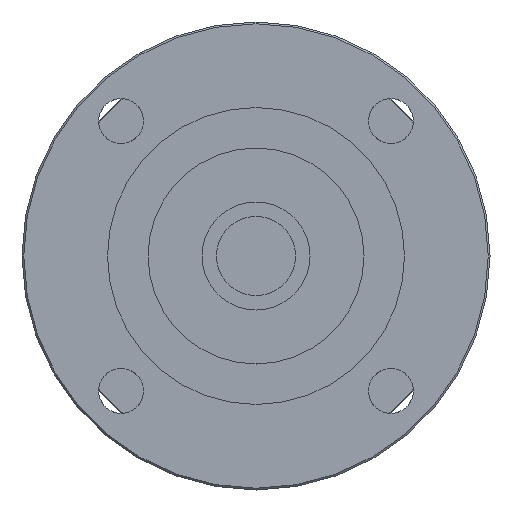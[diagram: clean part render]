
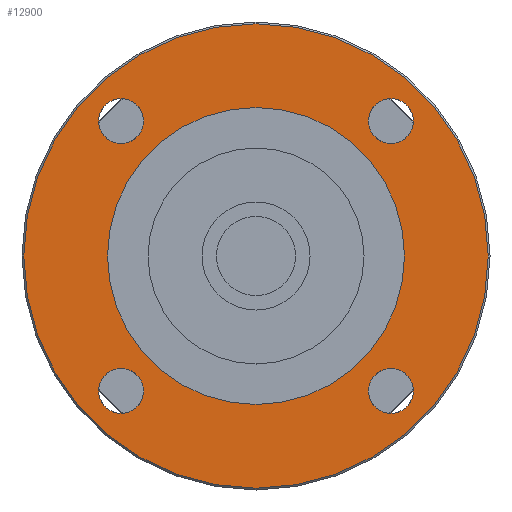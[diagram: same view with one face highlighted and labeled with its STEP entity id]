
A CAD part, left-side view. The second image highlights one B-rep face of the part: STEP entity #12900.
In plain terms, the highlighted planar face has unit normal (-1, 0, 0) as drawn and (0, 0, -1) by its records, which use the part's own axes.
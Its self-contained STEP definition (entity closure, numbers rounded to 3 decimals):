
#11820=CARTESIAN_POINT('',(-64.5,0.,-79.1));
#11830=VERTEX_POINT('',#11820);
#11860=CARTESIAN_POINT('',(0.,0.,
-79.1));
#11870=DIRECTION('',(0.,0.,-1.));
#11880=DIRECTION('',(1.,0.,0.));
#11890=AXIS2_PLACEMENT_3D('',#11860,#11870,#11880);
#11900=CIRCLE('',#11890,64.5);
#11910=CARTESIAN_POINT('',(64.5,0.,-79.1));
#11920=VERTEX_POINT('',#11910);
#11930=EDGE_CURVE('',#11830,#11920,#11900,.T.);
#12050=CARTESIAN_POINT('',(0.,0.,
-79.1));
#12060=DIRECTION('',(0.,0.,-1.));
#12070=DIRECTION('',(1.,0.,0.));
#12080=AXIS2_PLACEMENT_3D('',#12050,#12060,#12070);
#12090=PLANE('',#12080);
#12100=CARTESIAN_POINT('',(-37.477,-37.477,-79.1));
#12110=DIRECTION('',(0.,0.,-1.));
#12120=DIRECTION('',(1.,0.,0.));
#12130=AXIS2_PLACEMENT_3D('',#12100,#12110,#12120);
#12140=CIRCLE('',#12130,6.25);
#12150=CARTESIAN_POINT('',(-31.227,-37.477,-79.1));
#12160=VERTEX_POINT('',#12150);
#12170=CARTESIAN_POINT('',(-43.727,-37.477,-79.1));
#12180=VERTEX_POINT('',#12170);
#12190=EDGE_CURVE('',#12160,#12180,#12140,.T.);
#12200=ORIENTED_EDGE('',*,*,#12190,.F.);
#12210=EDGE_CURVE('',#12180,#12160,#12140,.T.);
#12220=ORIENTED_EDGE('',*,*,#12210,.F.);
#12230=EDGE_LOOP('',(#12220,#12200));
#12240=FACE_BOUND('',#12230,.T.);
#12250=CARTESIAN_POINT('',(-37.477,37.477,-79.1));
#12260=DIRECTION('',(0.,0.,-1.));
#12270=DIRECTION('',(1.,0.,0.));
#12280=AXIS2_PLACEMENT_3D('',#12250,#12260,#12270);
#12290=CIRCLE('',#12280,6.25);
#12300=CARTESIAN_POINT('',(-31.227,37.477,-79.1));
#12310=VERTEX_POINT('',#12300);
#12320=CARTESIAN_POINT('',(-43.727,37.477,-79.1));
#12330=VERTEX_POINT('',#12320);
#12340=EDGE_CURVE('',#12310,#12330,#12290,.T.);
#12350=ORIENTED_EDGE('',*,*,#12340,.F.);
#12360=EDGE_CURVE('',#12330,#12310,#12290,.T.);
#12370=ORIENTED_EDGE('',*,*,#12360,.F.);
#12380=EDGE_LOOP('',(#12370,#12350));
#12390=FACE_BOUND('',#12380,.T.);
#12400=CARTESIAN_POINT('',(37.477,37.477,-79.1));
#12410=DIRECTION('',(0.,0.,-1.));
#12420=DIRECTION('',(1.,0.,0.));
#12430=AXIS2_PLACEMENT_3D('',#12400,#12410,#12420);
#12440=CIRCLE('',#12430,6.25);
#12450=CARTESIAN_POINT('',(43.727,37.477,-79.1));
#12460=VERTEX_POINT('',#12450);
#12470=CARTESIAN_POINT('',(31.227,37.477,-79.1));
#12480=VERTEX_POINT('',#12470);
#12490=EDGE_CURVE('',#12460,#12480,#12440,.T.);
#12500=ORIENTED_EDGE('',*,*,#12490,.F.);
#12510=EDGE_CURVE('',#12480,#12460,#12440,.T.);
#12520=ORIENTED_EDGE('',*,*,#12510,.F.);
#12530=EDGE_LOOP('',(#12520,#12500));
#12540=FACE_BOUND('',#12530,.T.);
#12550=CARTESIAN_POINT('',(37.477,-37.477,-79.1));
#12560=DIRECTION('',(0.,0.,-1.));
#12570=DIRECTION('',(1.,0.,0.));
#12580=AXIS2_PLACEMENT_3D('',#12550,#12560,#12570);
#12590=CIRCLE('',#12580,6.25);
#12600=CARTESIAN_POINT('',(43.727,-37.477,-79.1));
#12610=VERTEX_POINT('',#12600);
#12620=CARTESIAN_POINT('',(31.227,-37.477,-79.1));
#12630=VERTEX_POINT('',#12620);
#12640=EDGE_CURVE('',#12610,#12630,#12590,.T.);
#12650=ORIENTED_EDGE('',*,*,#12640,.F.);
#12660=EDGE_CURVE('',#12630,#12610,#12590,.T.);
#12670=ORIENTED_EDGE('',*,*,#12660,.F.);
#12680=EDGE_LOOP('',(#12670,#12650));
#12690=FACE_BOUND('',#12680,.T.);
#12700=EDGE_CURVE('',#11920,#11830,#11900,.T.);
#12710=ORIENTED_EDGE('',*,*,#12700,.T.);
#12720=ORIENTED_EDGE('',*,*,#11930,.T.);
#12730=EDGE_LOOP('',(#12720,#12710));
#12740=FACE_OUTER_BOUND('',#12730,.T.);
#12750=CARTESIAN_POINT('',(0.,0.,
-79.1));
#12760=DIRECTION('',(0.,0.,1.));
#12770=DIRECTION('',(1.,0.,0.));
#12780=AXIS2_PLACEMENT_3D('',#12750,#12760,#12770);
#12790=CIRCLE('',#12780,41.25);
#12800=CARTESIAN_POINT('',(41.25,0.,-79.1));
#12810=VERTEX_POINT('',#12800);
#12820=CARTESIAN_POINT('',(-41.25,0.,-79.1));
#12830=VERTEX_POINT('',#12820);
#12840=EDGE_CURVE('',#12810,#12830,#12790,.T.);
#12850=ORIENTED_EDGE('',*,*,#12840,.T.);
#12860=EDGE_CURVE('',#12830,#12810,#12790,.T.);
#12870=ORIENTED_EDGE('',*,*,#12860,.T.);
#12880=EDGE_LOOP('',(#12870,#12850));
#12890=FACE_BOUND('',#12880,.T.);
#12900=ADVANCED_FACE('',(#12240,#12390,#12540,#12690,#12740,#12890),
#12090,.T.);
